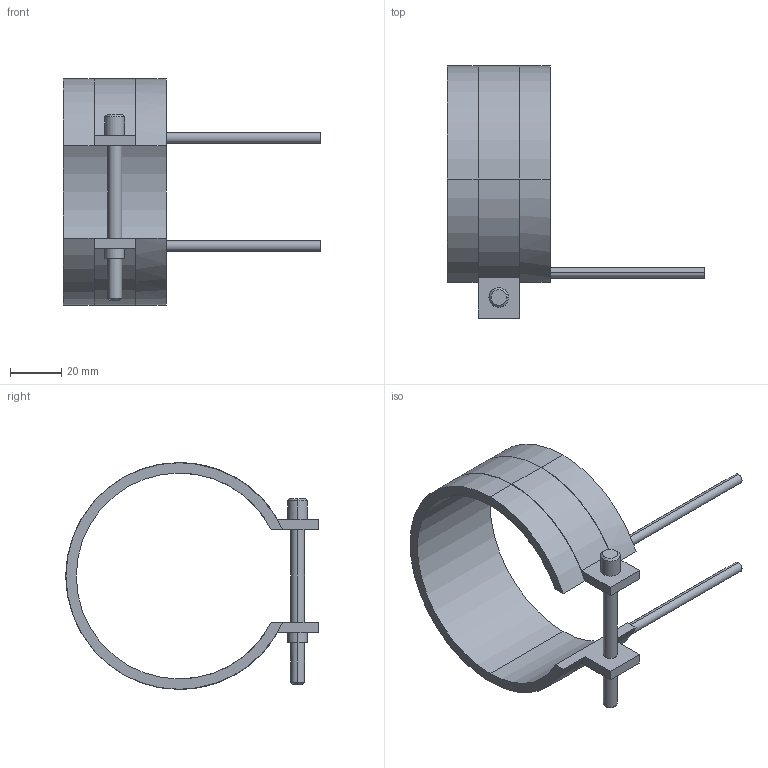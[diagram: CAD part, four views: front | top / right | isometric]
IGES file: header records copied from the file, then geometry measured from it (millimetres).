
Start section: START RECORD GO HERE.
Global section: file name: 14080040.igs; native system: DASSAULT SYSTEMES CATIA V5 R20 - www.3ds.com; preprocessor: CATIA Version 5 Release 20 ; author: Utente; organization: NB04-ASUS; date: 20210403.100347; units: millimetre
Bounding box: 100 x 98.1 x 88.2 mm (x, y, z)
Surface area: 24129.1 mm2 (no closed solid volume)
Topology: 0 solids, 0 shells, 45 faces, 232 edges, 232 vertices
Faces by surface type: revolution 28, plane 17
